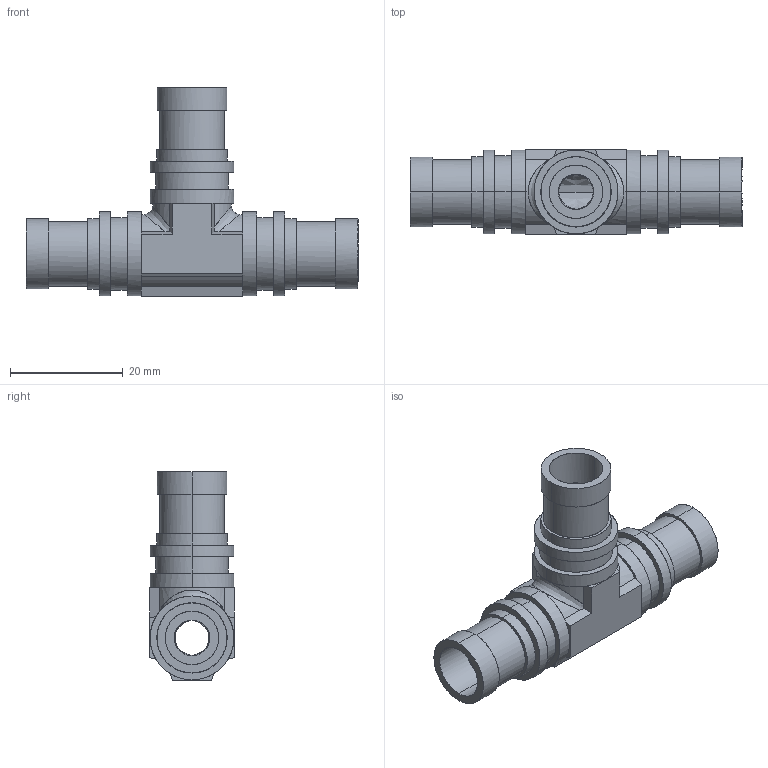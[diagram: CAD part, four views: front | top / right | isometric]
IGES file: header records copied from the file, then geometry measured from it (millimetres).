
Start section: Comment
Global section: file name: 70-9.5UT-P.igs; native system:  By Spatial Corp.; preprocessor: XPlus GENERIC/IGES 3.0; author: Author; organization: Title; date: 20100223.103056; units: inch
Bounding box: 59 x 15 x 37 mm (x, y, z)
Surface area: 6085.2 mm2 (no closed solid volume)
Topology: 0 solids, 0 shells, 109 faces, 508 edges, 508 vertices
Faces by surface type: bspline 109
